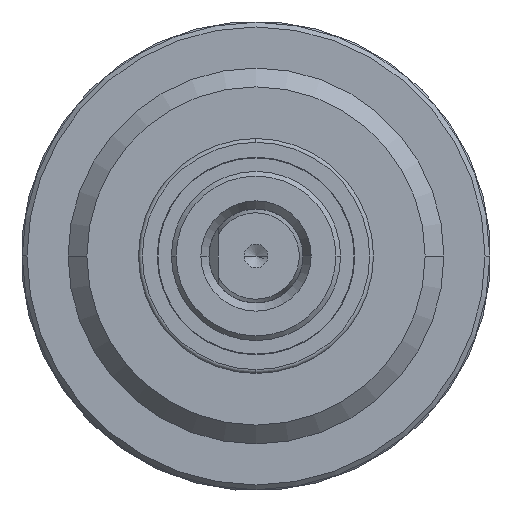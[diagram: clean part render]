
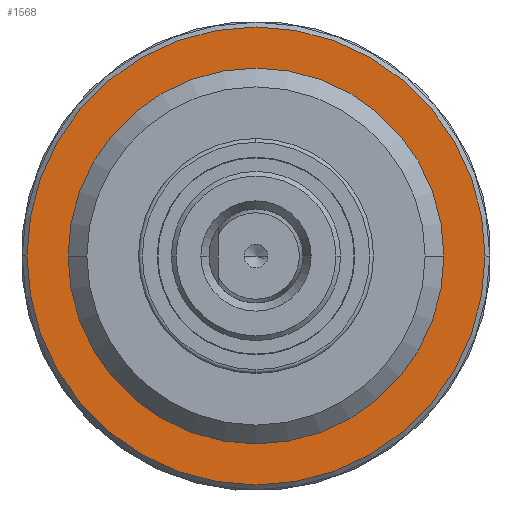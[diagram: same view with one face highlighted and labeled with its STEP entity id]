
A CAD part, left-side view. The second image highlights one B-rep face of the part: STEP entity #1568.
In plain terms, the highlighted planar face has unit normal (-1, 0, 0).
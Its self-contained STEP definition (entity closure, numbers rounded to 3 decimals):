
#194=CARTESIAN_POINT('',(0.,0.,
0.));
#195=DIRECTION('',(1.,0.,0.));
#196=DIRECTION('',(0.,-1.,0.));
#197=AXIS2_PLACEMENT_3D('',#194,#195,#196);
#202=CARTESIAN_POINT('',(0.,0.,
0.));
#203=DIRECTION('',(1.,0.,0.));
#204=DIRECTION('',(0.,0.,-1.));
#205=AXIS2_PLACEMENT_3D('',#202,#203,#204);
#210=CARTESIAN_POINT('',(0.,0.,0.));
#211=DIRECTION('',(1.,0.,0.));
#212=DIRECTION('',(0.,1.,0.));
#213=AXIS2_PLACEMENT_3D('',#210,#211,#212);
#218=CARTESIAN_POINT('',(0.,0.,0.));
#219=DIRECTION('',(1.,0.,0.));
#220=DIRECTION('',(0.,0.,1.));
#221=AXIS2_PLACEMENT_3D('',#218,#219,#220);
#226=CARTESIAN_POINT('',(0.,0.,0.));
#227=DIRECTION('',(-1.,0.,0.));
#228=DIRECTION('',(0.,-1.,0.));
#229=AXIS2_PLACEMENT_3D('',#226,#227,#228);
#234=CARTESIAN_POINT('',(0.,0.,0.));
#235=DIRECTION('',(-1.,0.,0.));
#236=DIRECTION('',(0.,1.,0.));
#237=AXIS2_PLACEMENT_3D('',#234,#235,#236);
#1228=CARTESIAN_POINT('',(0.,3.5,0.));
#1229=VERTEX_POINT('',#1228);
#1230=CARTESIAN_POINT('',(0.,-3.5,0.));
#1231=VERTEX_POINT('',#1230);
#1232=CARTESIAN_POINT('',(0.,0.,
-4.875));
#1233=CARTESIAN_POINT('',(0.,4.875,
0.));
#1234=VERTEX_POINT('',#1232);
#1235=VERTEX_POINT('',#1233);
#1236=CARTESIAN_POINT('',(0.,-4.875,
0.));
#1237=VERTEX_POINT('',#1236);
#1238=CARTESIAN_POINT('',(0.,0.,
4.875));
#1239=VERTEX_POINT('',#1238);
#1549=CARTESIAN_POINT('',(0.,0.,0.));
#1550=DIRECTION('',(1.,0.,0.));
#1551=DIRECTION('',(0.,-1.,0.));
#1552=AXIS2_PLACEMENT_3D('',#1549,#1550,#1551);
#1553=PLANE('',#1552);
#1555=ORIENTED_EDGE('',*,*,#1554,.T.);
#1557=ORIENTED_EDGE('',*,*,#1556,.T.);
#1559=ORIENTED_EDGE('',*,*,#1558,.T.);
#1561=ORIENTED_EDGE('',*,*,#1560,.T.);
#1562=EDGE_LOOP('',(#1555,#1557,#1559,#1561));
#1563=FACE_OUTER_BOUND('',#1562,.F.);
#1564=ORIENTED_EDGE('',*,*,#1530,.T.);
#1565=ORIENTED_EDGE('',*,*,#1507,.T.);
#1566=EDGE_LOOP('',(#1564,#1565));
#1567=FACE_BOUND('',#1566,.F.);
#1568=ADVANCED_FACE('',(#1563,#1567),#1553,.F.);
#198=CIRCLE('',#197,4.875);
#206=CIRCLE('',#205,4.875);
#214=CIRCLE('',#213,4.875);
#222=CIRCLE('',#221,4.875);
#230=CIRCLE('',#229,3.5);
#238=CIRCLE('',#237,3.5);
#1507=EDGE_CURVE('',#1229,#1231,#238,.T.);
#1530=EDGE_CURVE('',#1231,#1229,#230,.T.);
#1554=EDGE_CURVE('',#1237,#1234,#198,.T.);
#1556=EDGE_CURVE('',#1234,#1235,#206,.T.);
#1558=EDGE_CURVE('',#1235,#1239,#214,.T.);
#1560=EDGE_CURVE('',#1239,#1237,#222,.T.);
